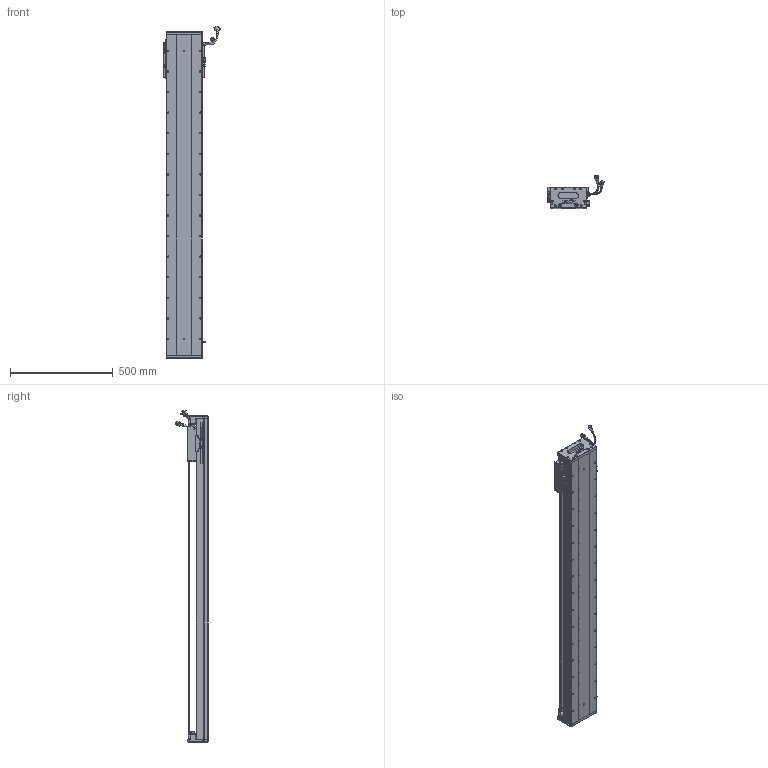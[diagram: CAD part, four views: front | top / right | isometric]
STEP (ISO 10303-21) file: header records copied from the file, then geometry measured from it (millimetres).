
FILE_DESCRIPTION (( 'STEP AP203' ), '1' );
FILE_NAME ('Z2-RY170D-1-L500-B-K.SLDASM_1300.step', '2021-05-17T09:07:58', ( '盈信电脑' ), ( '东莞市道滘镇水果街19号' ), 'SwSTEP 2.0', 'SolidWorks 2016', '' );
FILE_SCHEMA (( 'CONFIG_CONTROL_DESIGN' ));
Length unit declared in the file: millimetre
Products named in the file (36): COVER-Part-1; 080黍杅芛假蚾釱21遴; Z2-RY170臏賑輸(21遴); SCREW-M1.7-1; Z-RY170詩湍狟揤裔; LABEL; Z2-RY170D-1-L500-B-K.SLDASM_1300; 榋妏寠巭燃_暯_M2_2; HARNESS; 覜茼ん672; SCREW-M1.6; Z2-RY170-L500耀郪菁釱_1300; COVER; SCALE-Part-2; SCALE; SCREW-M1.7; HARNESS-Part-2; SCREW-M1.6-1; 170-Z-臏賑輸盄裔(21遴); HOLDER0; 140雄赽晤鎢ん堤盄; 140蚥薯蝶輸; PBU_SHEET; RY170直线电机感应器672光电感应片; PSLH080_PSLF2; SCREW-M1.6-2; SCALE-Part-1; HARNESS-Part-1; LABEL-Part-1; Z2-RY170-L500詩湍145mm遵_1300; Z-170詩湍傷裔啣; SEAL-Part-1; SCREW-M1.6-3; SHIELDPLATE; SEAL; Z-RY170詩湍奻揤裔
Assembly tree (41 placements, depth 4):
  Z2-RY170D-1-L500-B-K.SLDASM_1300
    Z2-RY170-L500耀郪菁釱_1300
    RY170直线电机感应器672光电感应片
    Z2-RY170臏賑輸(21遴)
    覜茼ん672  x3
    PSLH080_PSLF2
      SCALE
        SCALE-Part-1
        SCALE-Part-2
      HARNESS
        HARNESS-Part-1
        HARNESS-Part-2
      LABEL
        LABEL-Part-1
      COVER
        COVER-Part-1
      SEAL
        SEAL-Part-1
      榋妏寠巭燃_暯_M2_2
      SHIELDPLATE
      SCREW-M1.7
      SCREW-M1.7-1
      PBU_SHEET
      SCREW-M1.6
      SCREW-M1.6-1
      SCREW-M1.6-2
      SCREW-M1.6-3
      HOLDER0
    080黍杅芛假蚾釱21遴
    Z2-RY170-L500詩湍145mm遵_1300
    Z-170詩湍傷裔啣  x2
    Z-RY170詩湍奻揤裔  x2
    Z-RY170詩湍狟揤裔  x2
    140蚥薯蝶輸  x2
    170-Z-臏賑輸盄裔(21遴)
    140雄赽晤鎢ん堤盄
Bounding box: 275.33 x 158.11 x 1613.72 mm (x, y, z)
Volume: 8415477.7 mm3; surface area: 2067106.6 mm2
Topology: 36 solids, 36 shells, 3360 faces, 9107 edges, 5709 vertices
Faces by surface type: cylinder 1586, plane 1208, cone 444, torus 69, bspline 53
Entity records: 101119 total; most frequent: CARTESIAN_POINT 26678, ORIENTED_EDGE 14930, DIRECTION 14417, EDGE_CURVE 7465, AXIS2_PLACEMENT_3D 5290, VERTEX_POINT 4827, LINE 3837, VECTOR 3837
